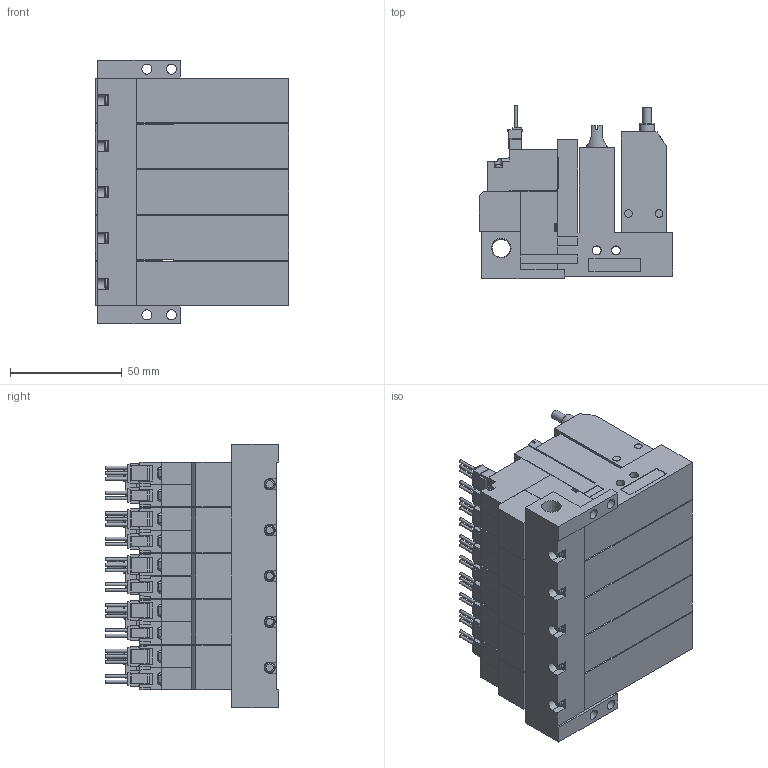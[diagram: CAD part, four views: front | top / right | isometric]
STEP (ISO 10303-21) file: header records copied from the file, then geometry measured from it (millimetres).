
FILE_DESCRIPTION(('STEP AP203'),'1');
FILE_NAME('ABS_ABPL5WLR505.stp','2025-02-19T01:03:18',(' '),(' '),'Spatial InterOp 3D',' ',' ');
FILE_SCHEMA(('CONFIG_CONTROL_DESIGN'));
Length unit declared in the file: millimetre
Products named in the file (5): BMC22M※※※※ABS_ABPL5WLR505; Solenoid valve W; Pressure sensor ABSL; Unit L; Base MR50R
Assembly tree (16 placements, depth 2):
  BMC22M※※※※ABS_ABPL5WLR505
    Solenoid valve W  x5
    Pressure sensor ABSL  x5
    Unit L  x5
    Base MR50R
Bounding box: 86.6 x 77.45 x 118 mm (x, y, z)
Volume: 451551.5 mm3; surface area: 125623.3 mm2
Topology: 16 solids, 16 shells, 1801 faces, 4824 edges, 3185 vertices
Faces by surface type: plane 1524, cylinder 220, cone 37, torus 20
Full cylindrical faces by diameter (mm): 1.4 x25, 2.5 x5, 3 x20, 3.5 x30, 3.6 x5, 4 x15, 4.134 x5, 4.5 x4, 5.2 x5, 6 x5, 6.5 x5, 6.6 x5, 8.279 x1
Entity records: 13629 total; most frequent: CARTESIAN_POINT 2584, DIRECTION 2174, ORIENTED_EDGE 2122, EDGE_CURVE 1061, LINE 854, VECTOR 854, VERTEX_POINT 745, AXIS2_PLACEMENT_3D 660
